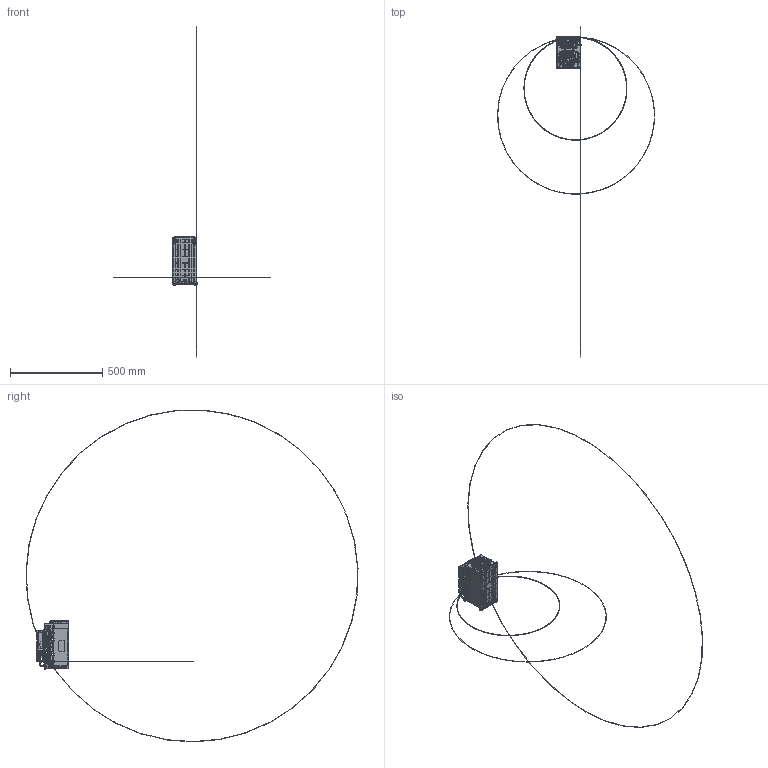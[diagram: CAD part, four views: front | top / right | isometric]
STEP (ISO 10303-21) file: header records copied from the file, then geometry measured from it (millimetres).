
FILE_DESCRIPTION((''),'2;1');
FILE_NAME('PRT0001','2009-11-11T',('KADY.CHANG'),(''),'PRO/ENGINEER BY PARAMETRIC TECHNOLOGY CORPORATION, 2007390','PRO/ENGINEER BY PARAMETRIC TECHNOLOGY CORPORATION, 2007390','');
FILE_SCHEMA(('CONFIG_CONTROL_DESIGN'));
Products named in the file (1): PRT0001
Bounding box: 849.94 x 1796.97 x 1796.14 mm (x, y, z)
Surface area: 345204.1 mm2 (no closed solid volume)
Topology: 0 solids, 0 shells, 1380 faces, 12753 edges, 12677 vertices
Faces by surface type: bspline 1304, torus 76
Entity records: 215672 total; most frequent: CARTESIAN_POINT 91495, DIRECTION 19059, TRIMMED_CURVE 17979, VECTOR 17051, LINE 17051, DEFINITIONAL_REPRESENTATION 12601, PCURVE 12601, COMPOSITE_CURVE_SEGMENT 12601
